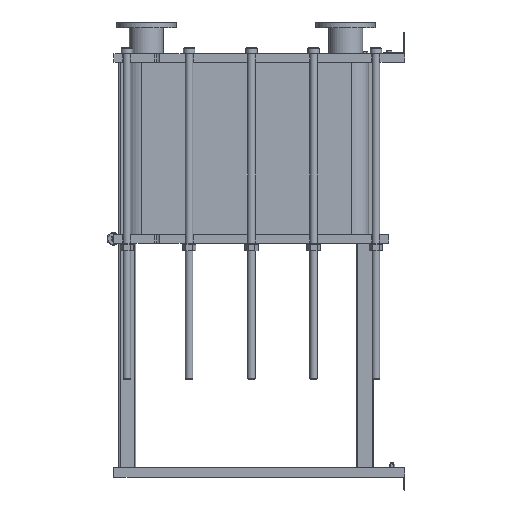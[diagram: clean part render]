
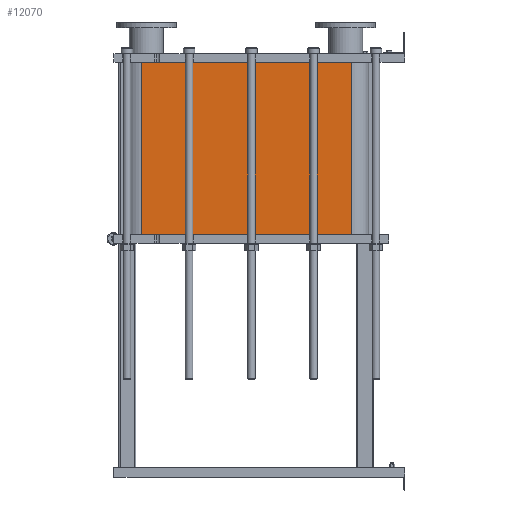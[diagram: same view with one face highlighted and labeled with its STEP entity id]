
A CAD part, left-side view. The second image highlights one B-rep face of the part: STEP entity #12070.
In plain terms, the highlighted planar face has unit normal (-1, 0, 0).
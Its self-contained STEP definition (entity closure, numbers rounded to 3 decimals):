
#1064=LINE('',#21140,#2164);
#1065=LINE('',#21144,#2165);
#1066=LINE('',#21146,#2166);
#1067=LINE('',#21147,#2167);
#2164=VECTOR('',#15790,10.);
#2165=VECTOR('',#15795,10.);
#2166=VECTOR('',#15796,10.);
#2167=VECTOR('',#15797,10.);
#3304=FACE_OUTER_BOUND('',#4091,.T.);
#4091=EDGE_LOOP('',(#9793,#9794,#9795,#9796));
#5677=VERTEX_POINT('',#21137);
#5678=VERTEX_POINT('',#21139);
#5679=VERTEX_POINT('',#21143);
#5680=VERTEX_POINT('',#21145);
#7118=EDGE_CURVE('',#5678,#5677,#1064,.T.);
#7120=EDGE_CURVE('',#5677,#5679,#1065,.T.);
#7121=EDGE_CURVE('',#5680,#5679,#1066,.T.);
#7122=EDGE_CURVE('',#5680,#5678,#1067,.T.);
#9793=ORIENTED_EDGE('',*,*,#7120,.T.);
#9794=ORIENTED_EDGE('',*,*,#7121,.F.);
#9795=ORIENTED_EDGE('',*,*,#7122,.T.);
#9796=ORIENTED_EDGE('',*,*,#7118,.T.);
#11441=PLANE('',#13191);
#12070=ADVANCED_FACE('',(#3304),#11441,.T.);
#13191=AXIS2_PLACEMENT_3D('',#21142,#15793,#15794);
#15790=DIRECTION('',(0.,0.,-1.));
#15793=DIRECTION('center_axis',(-1.,0.,0.));
#15794=DIRECTION('ref_axis',(0.,1.,0.));
#15795=DIRECTION('',(0.,-1.,0.));
#15796=DIRECTION('',(0.,0.,-1.));
#15797=DIRECTION('',(0.,1.,0.));
#21137=CARTESIAN_POINT('',(-248.152,1243.818,-814.2));
#21139=CARTESIAN_POINT('',(-248.152,1243.818,0.));
#21140=CARTESIAN_POINT('',(-248.152,1243.818,0.));
#21142=CARTESIAN_POINT('Origin',(-248.152,251.818,0.));
#21143=CARTESIAN_POINT('',(-248.152,251.818,-814.2));
#21144=CARTESIAN_POINT('',(-248.152,499.818,-814.2));
#21145=CARTESIAN_POINT('',(-248.152,251.818,0.));
#21146=CARTESIAN_POINT('',(-248.152,251.818,0.));
#21147=CARTESIAN_POINT('',(-248.152,251.818,0.));
